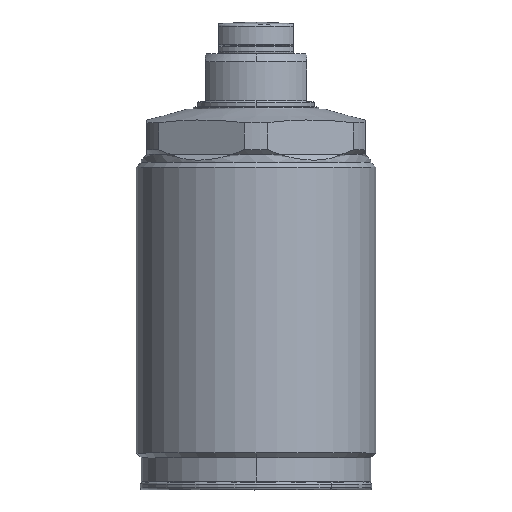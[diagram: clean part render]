
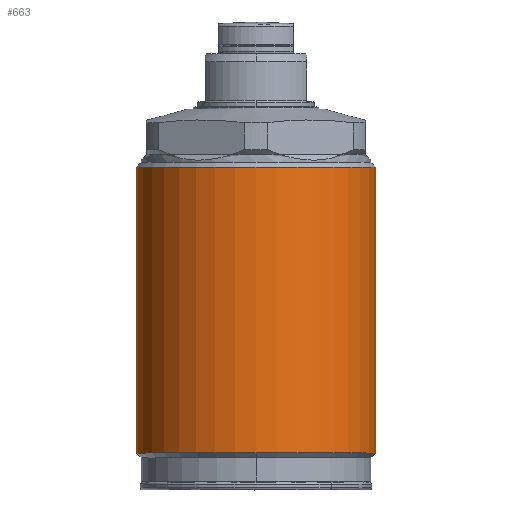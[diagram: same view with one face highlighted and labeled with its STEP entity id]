
A CAD part, top view. The second image highlights one B-rep face of the part: STEP entity #663.
In plain terms, the highlighted cylindrical face has radius 22.5 mm (diameter 45 mm), a full revolution.
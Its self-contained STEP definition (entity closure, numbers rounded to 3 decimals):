
#321=FACE_BOUND('',#989,.T.);
#322=FACE_BOUND('',#990,.T.);
#376=CYLINDRICAL_SURFACE('',#2672,22.5);
#449=LINE('',#4335,#534);
#450=LINE('',#4340,#535);
#534=VECTOR('',#3361,1.);
#535=VECTOR('',#3364,1.);
#663=ADVANCED_FACE('',(#321,#322),#376,.T.);
#989=EDGE_LOOP('',(#1520));
#990=EDGE_LOOP('',(#1521,#1522,#1523,#1524,#1525,#1526));
#1520=ORIENTED_EDGE('',*,*,#2147,.T.);
#1521=ORIENTED_EDGE('',*,*,#2148,.T.);
#1522=ORIENTED_EDGE('',*,*,#2148,.F.);
#1523=ORIENTED_EDGE('',*,*,#2149,.F.);
#1524=ORIENTED_EDGE('',*,*,#2150,.T.);
#1525=ORIENTED_EDGE('',*,*,#2150,.F.);
#1526=ORIENTED_EDGE('',*,*,#2151,.F.);
#1853=VERTEX_POINT('',#4334);
#1854=VERTEX_POINT('',#4336);
#1855=VERTEX_POINT('',#4337);
#1856=VERTEX_POINT('',#4339);
#1857=VERTEX_POINT('',#4341);
#2147=EDGE_CURVE('',#1853,#1853,#2366,.T.);
#2148=EDGE_CURVE('',#1854,#1855,#449,.T.);
#2149=EDGE_CURVE('',#1856,#1854,#2367,.T.);
#2150=EDGE_CURVE('',#1856,#1857,#450,.T.);
#2151=EDGE_CURVE('',#1854,#1856,#2368,.T.);
#2366=CIRCLE('',#2669,22.5);
#2367=CIRCLE('',#2670,22.5);
#2368=CIRCLE('',#2671,22.5);
#2669=AXIS2_PLACEMENT_3D('',#4333,#3359,#3360);
#2670=AXIS2_PLACEMENT_3D('',#4338,#3362,#3363);
#2671=AXIS2_PLACEMENT_3D('',#4342,#3365,#3366);
#2672=AXIS2_PLACEMENT_3D('',#4343,#3367,#3368);
#3359=DIRECTION('',(0.,-1.,0.));
#3360=DIRECTION('',(0.,0.,-1.));
#3361=DIRECTION('',(0.,1.,0.));
#3362=DIRECTION('',(0.,-1.,0.));
#3363=DIRECTION('',(0.,0.,-1.));
#3364=DIRECTION('',(0.,1.,0.));
#3365=DIRECTION('',(0.,-1.,0.));
#3366=DIRECTION('',(0.,0.,-1.));
#3367=DIRECTION('',(0.,-1.,0.));
#3368=DIRECTION('',(0.,0.,-1.));
#4333=CARTESIAN_POINT('',(0.,58.,0.));
#4334=CARTESIAN_POINT('',(0.,58.,-22.5));
#4335=CARTESIAN_POINT('',(0.,-1.3,22.5));
#4336=CARTESIAN_POINT('',(0.,4.3,22.5));
#4337=CARTESIAN_POINT('',(0.,52.111,22.5));
#4338=CARTESIAN_POINT('',(0.,4.3,0.));
#4339=CARTESIAN_POINT('',(0.,4.3,-22.5));
#4340=CARTESIAN_POINT('',(0.,-1.3,-22.5));
#4341=CARTESIAN_POINT('',(0.,52.111,-22.5));
#4342=CARTESIAN_POINT('',(0.,4.3,0.));
#4343=CARTESIAN_POINT('',(0.,-1.3,0.));
